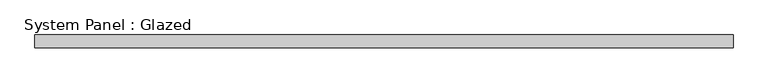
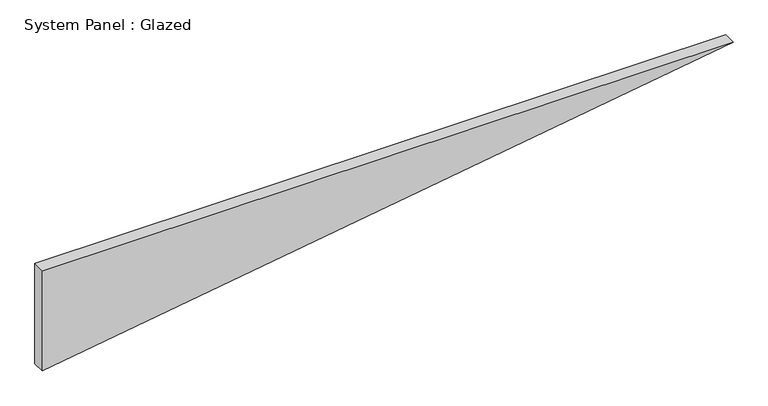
"""IFC4 building model written with IfcOpenShell, lengths in millimetres: plate geometry, System Panel : Glazed."""

from ifc_helpers import new_model, si_unit, frame, origin, place, context, project, spatial, polyline, outline, extrude, source, transform, mapped, element, save


def system_panel_glazed_cec11053(model_context):
    return source(origin(), model_context, "Body", "SweptSolid", [
        extrude(outline(polyline([(211.0058748, -686.0445674), (0.0, -686.0445674), (211.0058748, 686.0445674), (211.0058748, -686.0445674)])), frame((0.0, 19.05, 0.0), z_axis=(0.0, 1.0, 0.0), x_axis=(0.0, 0.0, 1.0)), (0.0, 0.0, 1.0), 25.4),
    ])


if __name__ == "__main__":
    model = new_model("IFC4")
    model_context = context("Model", 3, world=origin())
    ifc_project = project(units=[si_unit("LENGTHUNIT", "METRE", prefix="MILLI")], contexts=[model_context])
    site = spatial("IfcSite", under=ifc_project)
    building = spatial("IfcBuilding", under=site)
    placement = place(None, origin())
    system_panel_glazed_shape = system_panel_glazed_cec11053(model_context)
    element("IfcPlate", 1, ObjectType="System Panel : Glazed", at=placement, inside=building, context=model_context, shape_type="MappedRepresentation", body=[
        mapped(system_panel_glazed_shape, transform((0.0, 0.0, 0.0), x_axis=(1.0, 0.0, 0.0), y_axis=(0.0, 1.0, 0.0), z_axis=(0.0, 0.0, 1.0))),
    ])
    save(model, "model.ifc")
